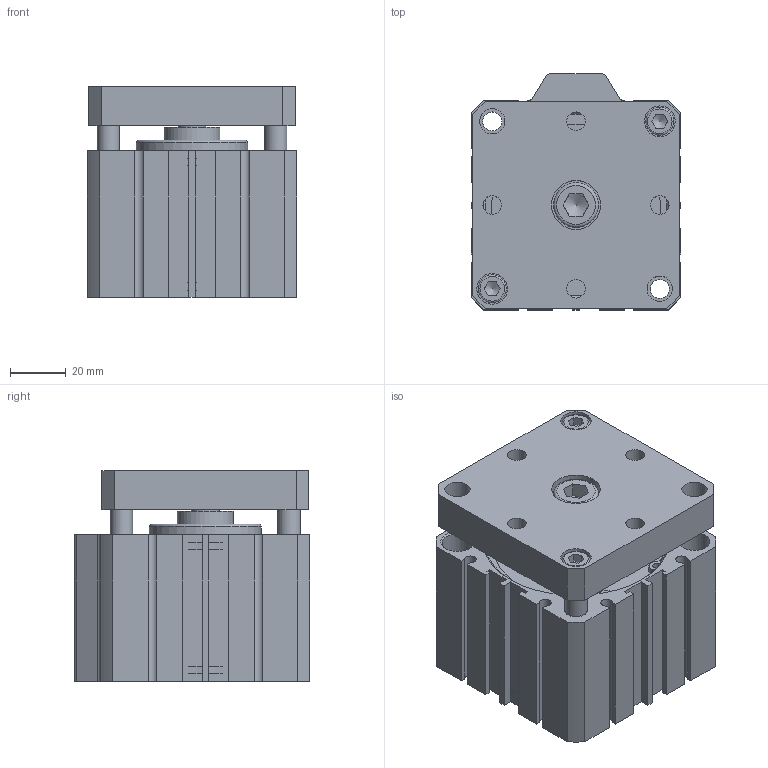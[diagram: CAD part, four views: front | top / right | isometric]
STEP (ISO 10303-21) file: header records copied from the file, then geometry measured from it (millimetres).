
FILE_DESCRIPTION((''),'2;1');
FILE_NAME('I:\3D電子目錄\氣缸\JTD\JTD\JTD63\JTD63x20.stp','2007-08-14T19:45:30',('Administrator'),(''),'Autodesk Inventor 11','Autodesk Inventor 11','');
FILE_SCHEMA(('AUTOMOTIVE_DESIGN { 1 0 10303 214 1 1 1 1 }'));
Length unit declared in the file: millimetre
Products named in the file (5): JTD63; R 形環 65; ISO 4762 M10 x 16; ISO 4762 M6 x 20
Assembly tree (6 placements, depth 2):
  JTD63
    JTD63
    R 形環 65  x2
    ISO 4762 M10 x 16
    ISO 4762 M6 x 20  x2
Bounding box: 75 x 84.5 x 75.5 mm (x, y, z)
Volume: 336215.5 mm3; surface area: 71128.1 mm2
Topology: 7 solids, 7 shells, 232 faces, 563 edges, 372 vertices
Faces by surface type: plane 136, cylinder 61, bspline 16, cone 14, torus 5
Full cylindrical faces by diameter (mm): 2.7 x4, 3 x2, 6 x2, 6.8 x2, 8 x2, 8.5 x2, 9 x2, 10 x3, 11 x4, 16 x1, 20 x1, 40 x1, 47 x1, 65 x4, 68 x2
Entity records: 6069 total; most frequent: CARTESIAN_POINT 1279, DIRECTION 964, ORIENTED_EDGE 866, EDGE_CURVE 433, AXIS2_PLACEMENT_3D 342, VERTEX_POINT 321, EDGE_LOOP 316, VECTOR 280
